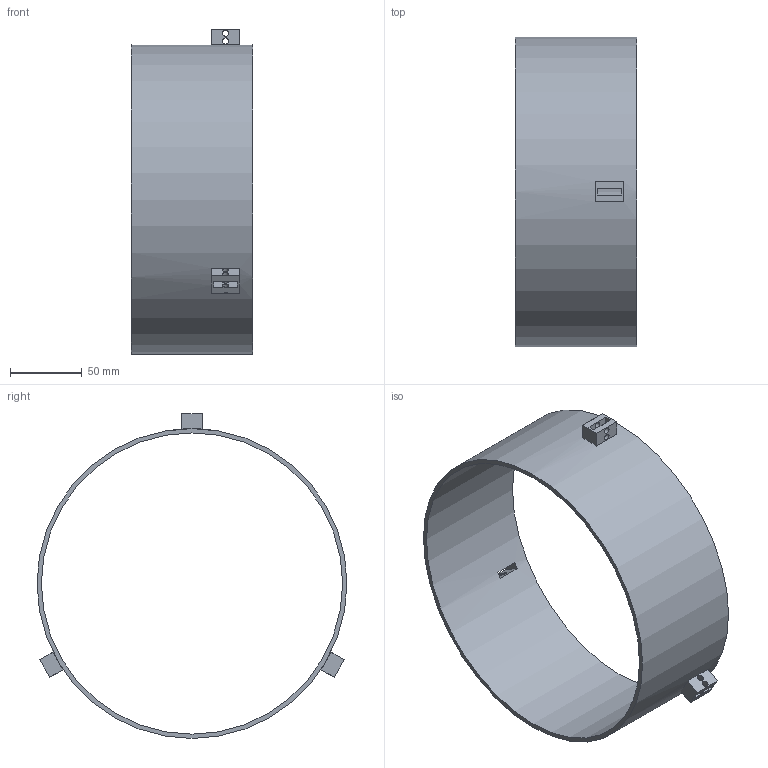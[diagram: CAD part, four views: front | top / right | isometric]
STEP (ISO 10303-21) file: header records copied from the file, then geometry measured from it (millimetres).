
FILE_DESCRIPTION(('Open CASCADE Model'),'2;1');
FILE_NAME('Open CASCADE Shape Model','2026-10-31T23:30:35',('Author'),( 'Open CASCADE'),'Open CASCADE STEP processor 7.9','Open CASCADE 7.9' ,'Unknown');
FILE_SCHEMA(('AUTOMOTIVE_DESIGN { 1 0 10303 214 1 1 1 1 }'));
Length unit declared in the file: millimetre
Products named in the file (1): Open CASCADE STEP translator 7.9 27
Bounding box: 84.8 x 216 x 226.5 mm (x, y, z)
Volume: 175204.1 mm3; surface area: 121354.5 mm2
Topology: 1 solids, 1 shells, 43 faces, 114 edges, 76 vertices
Faces by surface type: plane 29, cylinder 14
Full cylindrical faces by diameter (mm): 4.3 x12, 210 x1, 216 x1
Entity records: 2892 total; most frequent: CARTESIAN_POINT 582, DIRECTION 410, ORIENTED_EDGE 228, PCURVE 228, DEFINITIONAL_REPRESENTATION 228, LINE 214, VECTOR 214, EDGE_CURVE 114
